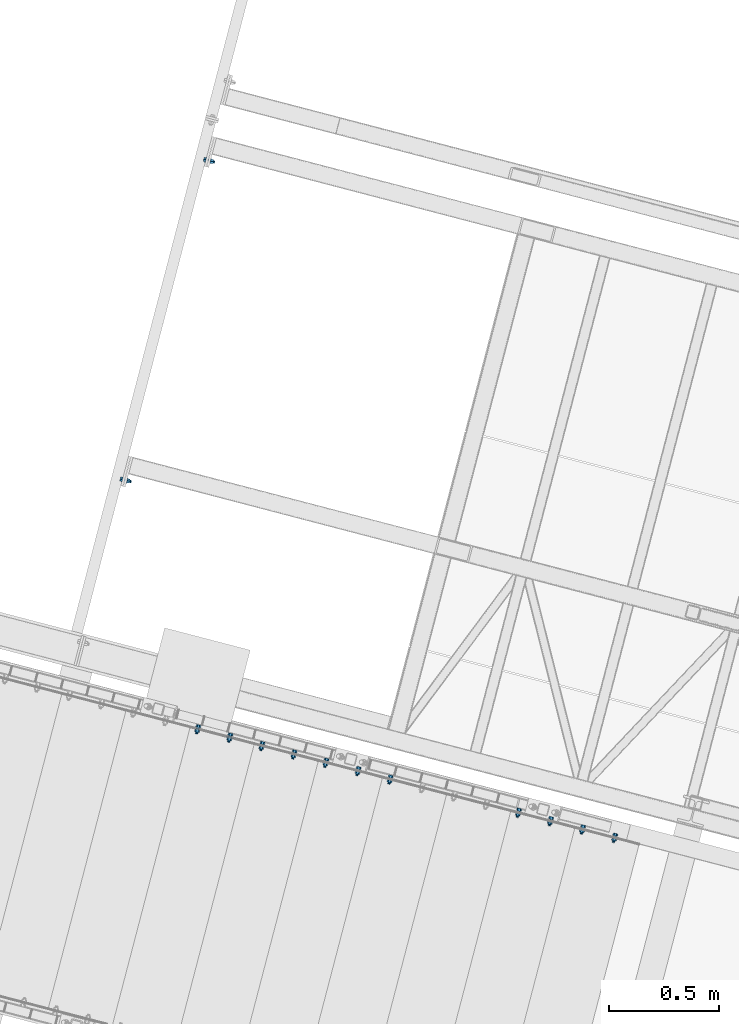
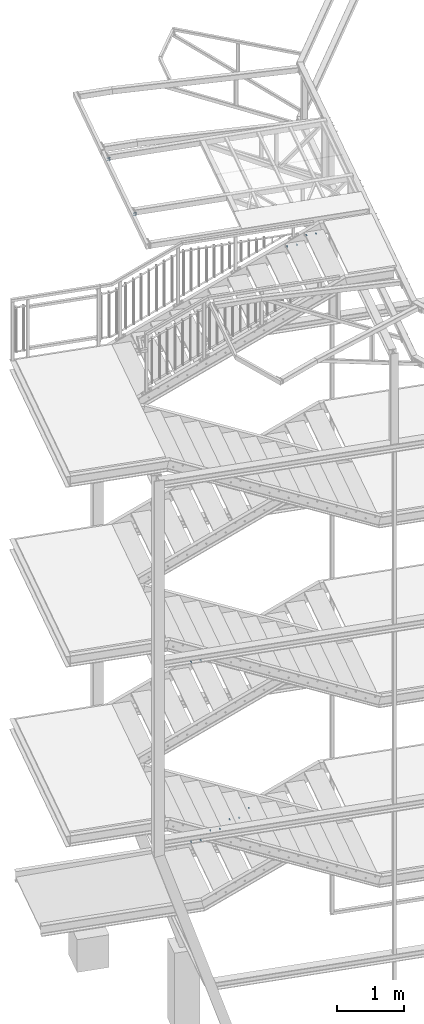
# One storey, part 151 of 169: 15 mechanical fasteners, 8 elements without a shape of their own.
"""IFC2X3 building model written with IfcOpenShell, lengths in millimetres."""

from ifc_helpers import new_model, si_unit, frame, frame_2d, origin_with_axes, origin_2d_with_axis, place, context, subcontext, project, spatial, polyline, circle_curve, parameter, trimmed, segment, composite_curve, circle, outline, extrude, source, transform, mapped, material, type_object, element, aggregate, save


model = new_model("IFC2X3")

# Units and contexts
model_context = context("Model", 3, precision=1e-05, world=origin_with_axes())
body_context = subcontext(model_context, "Body", "Model", "MODEL_VIEW")
ifc_project = project(units=[si_unit("LENGTHUNIT", "METRE", prefix="MILLI"), si_unit("AREAUNIT", "SQUARE_METRE"), si_unit("VOLUMEUNIT", "CUBIC_METRE"), si_unit("MASSUNIT", "GRAM", prefix="KILO"), si_unit("TIMEUNIT", "SECOND"), si_unit("PLANEANGLEUNIT", "RADIAN"), si_unit("SOLIDANGLEUNIT", "STERADIAN"), si_unit("THERMODYNAMICTEMPERATUREUNIT", "DEGREE_CELSIUS"), si_unit("LUMINOUSINTENSITYUNIT", "LUMEN")], contexts=[model_context])

# Site, building, storey
site_placement = place(None, origin_with_axes())
site = spatial("IfcSite", under=ifc_project, at=site_placement, Name="Undefined", CompositionType="ELEMENT")
building_placement = place(site_placement, origin_with_axes())
building = spatial("IfcBuilding", under=site, at=building_placement, Name="Undefined", CompositionType="ELEMENT")
storey_placement = place(building_placement, origin_with_axes())
storey = spatial("IfcBuildingStorey", under=building, at=storey_placement, Name="Undefined", CompositionType="ELEMENT", Elevation=0.0)

# Assembly, mechanical fasteners
assembly_1_placement = place(storey_placement, origin_with_axes())
assembly_1 = element("IfcElementAssembly", 1, at=assembly_1_placement, inside=storey, Name="Steel Assembly", AssemblyPlace="NOTDEFINED", PredefinedType="RIGID_FRAME")
ifc_material = material(Name="Undefined")
discrete_accessory_type = type_object("IfcDiscreteAccessoryType", Name="Bolt assembly")
shared_shape_1 = source(origin_with_axes(), body_context, "Body", "SweptSolid", [
    extrude(circle(Radius=7.5, at=origin_2d_with_axis()), frame((0.0, -10.3965103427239, 0.0), z_axis=(0.0, 1.0, 0.0), x_axis=(1.0, 0.0, 0.0)), (0.0, 0.0, 1.0), 10.0),
    extrude(outline(composite_curve([segment(polyline([(7.5, 7.5), (7.5, -7.5)]), True, "CONTINUOUS"), segment(trimmed(circle_curve(frame_2d((0.0, -7.5), x_axis=(1.0, 0.0)), 7.5), [parameter(0.0)], [parameter(3.14159265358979)], False, "PARAMETER"), True, "CONTINUOUS"), segment(polyline([(-7.5, -7.5), (-7.5, 7.5)]), True, "CONTINUOUS"), segment(trimmed(circle_curve(frame_2d((0.0, 7.5), x_axis=(-1.0, 0.0)), 7.5), [parameter(0.0)], [parameter(3.14159265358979)], False, "PARAMETER"), True, "DISCONTINUOUS")], self_intersect=False)), frame((0.0, 0.400000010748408, 0.0), z_axis=(0.0, 1.0, 0.0), x_axis=(1.0, 0.0, 0.0)), (0.0, 0.0, 1.0), 10.1),
    extrude(outline(polyline([(10.39230484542, 0.0), (5.19615242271, 9.00000000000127), (-5.19615242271, 9.00000000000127), (-10.39230484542, 0.0), (-5.19615242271, -9.00000000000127), (5.19615242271, -9.00000000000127), (10.39230484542, 0.0)])), frame((0.0, -20.9965103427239, 0.0), z_axis=(0.0, 1.0, 0.0), x_axis=(1.0, 0.0, 0.0)), (0.0, 0.0, 1.0), 7.5),
    extrude(circle(Radius=6.0, at=origin_2d_with_axis()), frame((0.0, -13.4965103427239, 0.0), z_axis=(0.0, 1.0, 0.0), x_axis=(1.0, 0.0, 0.0)), (0.0, 0.0, 1.0), 45.0),
    extrude(circle(Radius=12.0, at=origin_2d_with_axis()), frame((0.0, -13.4965103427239, 0.0), z_axis=(0.0, 1.0, 0.0), x_axis=(1.0, 0.0, 0.0)), (0.0, 0.0, 1.0), 3.0),
    extrude(circle(Radius=12.0, at=origin_2d_with_axis()), frame((0.0, 10.500000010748, 0.0), z_axis=(0.0, 1.0, 0.0), x_axis=(1.0, 0.0, 0.0)), (0.0, 0.0, 1.0), 3.0),
    extrude(outline(polyline([(10.96965511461, 0.0), (5.484827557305, 9.50000000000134), (-5.484827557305, 9.50000000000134), (-10.96965511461, 0.0), (-5.484827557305, -9.50000000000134), (5.484827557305, -9.50000000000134), (10.96965511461, 0.0)])), frame((0.0, 13.500000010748, 0.0), z_axis=(0.0, 1.0, 0.0), x_axis=(1.0, 0.0, 0.0)), (0.0, 0.0, 1.0), 10.0),
])
mechanical_fastener_1_placement = place(assembly_1_placement, frame((-26684.0017665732, 9645.53457575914, 14025.5932283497), z_axis=(-0.252628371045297, -0.967563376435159, 0.000136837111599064), x_axis=(0.000162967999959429, -0.000183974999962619, -0.999999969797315)))
mechanical_fastener_1 = element("IfcMechanicalFastener", 2, at=mechanical_fastener_1_placement, type_object=discrete_accessory_type, material=ifc_material, Name="Bolt assembly", NominalDiameter=12.0, NominalLength=45.0, context=body_context, shape_type="MappedRepresentation", body=[
    mapped(shared_shape_1, transform((30.0000000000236, 4.00177668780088e-11, 69.9999999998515))),
    mapped(shared_shape_1, transform((70.0000000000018, 0.0, 69.999999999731))),
])
shared_shape_2 = source(origin_with_axes(), body_context, "Body", "SweptSolid", [
    extrude(circle(Radius=7.5, at=origin_2d_with_axis()), frame((0.0, -10.3965103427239, 0.0), z_axis=(0.0, 1.0, 0.0), x_axis=(1.0, 0.0, 0.0)), (0.0, 0.0, 1.0), 10.0),
    extrude(outline(composite_curve([segment(polyline([(7.5, 7.5), (7.5, -7.5)]), True, "CONTINUOUS"), segment(trimmed(circle_curve(frame_2d((0.0, -7.5), x_axis=(1.0, 0.0)), 7.5), [parameter(0.0)], [parameter(3.14159265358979)], False, "PARAMETER"), True, "CONTINUOUS"), segment(polyline([(-7.5, -7.5), (-7.5, 7.5)]), True, "CONTINUOUS"), segment(trimmed(circle_curve(frame_2d((0.0, 7.5), x_axis=(-1.0, 0.0)), 7.5), [parameter(0.0)], [parameter(3.14159265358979)], False, "PARAMETER"), True, "DISCONTINUOUS")], self_intersect=False)), frame((0.0, 0.400000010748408, 0.0), z_axis=(0.0, 1.0, 0.0), x_axis=(1.0, 0.0, 0.0)), (0.0, 0.0, 1.0), 10.1),
    extrude(outline(polyline([(10.39230484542, 0.0), (5.19615242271, 9.00000000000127), (-5.19615242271, 9.00000000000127), (-10.39230484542, 0.0), (-5.19615242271, -9.00000000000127), (5.19615242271, -9.00000000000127), (10.39230484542, 0.0)])), frame((0.0, -20.9965103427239, 0.0), z_axis=(0.0, 1.0, 0.0), x_axis=(1.0, 0.0, 0.0)), (0.0, 0.0, 1.0), 7.5),
    extrude(circle(Radius=6.0, at=origin_2d_with_axis()), frame((0.0, -13.4965103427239, 0.0), z_axis=(0.0, 1.0, 0.0), x_axis=(1.0, 0.0, 0.0)), (0.0, 0.0, 1.0), 45.0),
    extrude(circle(Radius=12.0, at=origin_2d_with_axis()), frame((0.0, -13.4965103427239, 0.0), z_axis=(0.0, 1.0, 0.0), x_axis=(1.0, 0.0, 0.0)), (0.0, 0.0, 1.0), 3.0),
    extrude(circle(Radius=12.0, at=origin_2d_with_axis()), frame((0.0, 10.500000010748, 0.0), z_axis=(0.0, 1.0, 0.0), x_axis=(1.0, 0.0, 0.0)), (0.0, 0.0, 1.0), 3.0),
    extrude(outline(polyline([(10.96965511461, 0.0), (5.484827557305, 9.50000000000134), (-5.484827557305, 9.50000000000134), (-10.96965511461, 0.0), (-5.484827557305, -9.50000000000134), (5.484827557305, -9.50000000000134), (10.96965511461, 0.0)])), frame((0.0, 13.500000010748, 0.0), z_axis=(0.0, 1.0, 0.0), x_axis=(1.0, 0.0, 0.0)), (0.0, 0.0, 1.0), 10.0),
])
mechanical_fastener_2_placement = place(assembly_1_placement, frame((-26306.3225425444, 11092.0410943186, 14025.3886571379), z_axis=(-0.252628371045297, -0.967563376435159, 0.000136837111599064), x_axis=(0.000162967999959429, -0.000183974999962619, -0.999999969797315)))
mechanical_fastener_2 = element("IfcMechanicalFastener", 3, at=mechanical_fastener_2_placement, type_object=discrete_accessory_type, material=ifc_material, Name="Bolt assembly", NominalDiameter=12.0, NominalLength=45.0, context=body_context, shape_type="MappedRepresentation", body=[
    mapped(shared_shape_2, transform((30.0000000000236, 4.00177668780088e-11, 69.9999999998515))),
    mapped(shared_shape_2, transform((70.0000000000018, 0.0, 69.999999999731))),
])
aggregate(assembly_1, [mechanical_fastener_1, mechanical_fastener_2])

assembly_2_placement = place(storey_placement, origin_with_axes())
assembly_2 = element("IfcElementAssembly", 4, at=assembly_2_placement, inside=storey, Name="Steel Assembly", AssemblyPlace="NOTDEFINED", PredefinedType="RIGID_FRAME")
shared_shape_3 = source(origin_with_axes(), body_context, "Body", "SweptSolid", [
    extrude(circle(Radius=7.5, at=origin_2d_with_axis()), frame((0.0, -8.39999975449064, 0.0), z_axis=(0.0, 1.0, 0.0), x_axis=(1.0, 0.0, 0.0)), (0.0, 0.0, 1.0), 8.5),
    extrude(outline(composite_curve([segment(polyline([(-10.0, 7.5), (10.0, 7.5)]), True, "CONTINUOUS"), segment(trimmed(circle_curve(frame_2d((10.0, 0.0), x_axis=(0.0, 1.0)), 7.5), [parameter(0.0)], [parameter(3.14159265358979)], False, "PARAMETER"), True, "CONTINUOUS"), segment(polyline([(10.0, -7.5), (-10.0, -7.5)]), True, "CONTINUOUS"), segment(trimmed(circle_curve(frame_2d((-10.0, 0.0), x_axis=(0.0, -1.0)), 7.5), [parameter(0.0)], [parameter(3.14159265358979)], False, "PARAMETER"), True, "DISCONTINUOUS")], self_intersect=False)), frame((0.0, -0.100000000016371, 0.0), z_axis=(0.0, 1.0, 0.0), x_axis=(1.0, 0.0, 0.0)), (0.0, 0.0, 1.0), 3.1),
    extrude(outline(polyline([(10.39230484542, 0.0), (5.19615242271, 9.00000000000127), (-5.19615242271, 9.00000000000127), (-10.39230484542, 0.0), (-5.19615242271, -9.00000000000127), (5.19615242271, -9.00000000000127), (10.39230484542, 0.0)])), frame((0.0, -18.4999993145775, 0.0), z_axis=(0.0, 1.0, 0.0), x_axis=(1.0, 0.0, 0.0)), (0.0, 0.0, 1.0), 7.5),
    extrude(circle(Radius=6.0, at=origin_2d_with_axis()), frame((0.0, -10.9999999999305, 0.0), z_axis=(0.0, 1.0, 0.0), x_axis=(1.0, 0.0, 0.0)), (0.0, 0.0, 1.0), 35.0),
    extrude(circle(Radius=12.0, at=origin_2d_with_axis()), frame((0.0, -10.9999999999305, 0.0), z_axis=(0.0, 1.0, 0.0), x_axis=(1.0, 0.0, 0.0)), (0.0, 0.0, 1.0), 2.5),
    extrude(circle(Radius=12.0, at=origin_2d_with_axis()), frame((0.0, 2.99999999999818, 0.0), z_axis=(0.0, 1.0, 0.0), x_axis=(1.0, 0.0, 0.0)), (0.0, 0.0, 1.0), 2.5),
    extrude(outline(polyline([(10.96965511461, 0.0), (5.484827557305, 9.50000000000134), (-5.484827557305, 9.50000000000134), (-10.96965511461, 0.0), (-5.484827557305, -9.50000000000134), (5.484827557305, -9.50000000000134), (10.96965511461, 0.0)])), frame((0.0, 5.50000000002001, 0.0), z_axis=(0.0, 1.0, 0.0), x_axis=(1.0, 0.0, 0.0)), (0.0, 0.0, 1.0), 10.0),
])
mechanical_fastener_3_placement = place(assembly_2_placement, frame((-24663.1059749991, 8006.82399788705, 13850.0957858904), z_axis=(-2.54700353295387e-10, 0.0, -1.0), x_axis=(0.967580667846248, -0.252562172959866, 0.0)))
mechanical_fastener_3 = element("IfcMechanicalFastener", 5, at=mechanical_fastener_3_placement, type_object=discrete_accessory_type, material=ifc_material, Name="Bolt assembly", NominalDiameter=12.0, NominalLength=35.0, context=body_context, shape_type="MappedRepresentation", body=[
    mapped(shared_shape_3, transform((185.00000000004, -6.51198206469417e-10, 25.0))),
])
shared_shape_4 = source(origin_with_axes(), body_context, "Body", "SweptSolid", [
    extrude(circle(Radius=7.5, at=origin_2d_with_axis()), frame((0.0, -8.39999975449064, 0.0), z_axis=(0.0, 1.0, 0.0), x_axis=(1.0, 0.0, 0.0)), (0.0, 0.0, 1.0), 8.5),
    extrude(circle(Radius=7.5, at=origin_2d_with_axis()), frame((0.0, -0.100000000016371, 0.0), z_axis=(0.0, 1.0, 0.0), x_axis=(1.0, 0.0, 0.0)), (0.0, 0.0, 1.0), 3.1),
    extrude(outline(polyline([(10.39230484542, 0.0), (5.19615242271, 9.00000000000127), (-5.19615242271, 9.00000000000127), (-10.39230484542, 0.0), (-5.19615242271, -9.00000000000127), (5.19615242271, -9.00000000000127), (10.39230484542, 0.0)])), frame((0.0, -18.4999993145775, 0.0), z_axis=(0.0, 1.0, 0.0), x_axis=(1.0, 0.0, 0.0)), (0.0, 0.0, 1.0), 7.5),
    extrude(circle(Radius=6.0, at=origin_2d_with_axis()), frame((0.0, -10.9999999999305, 0.0), z_axis=(0.0, 1.0, 0.0), x_axis=(1.0, 0.0, 0.0)), (0.0, 0.0, 1.0), 35.0),
    extrude(circle(Radius=12.0, at=origin_2d_with_axis()), frame((0.0, -10.9999999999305, 0.0), z_axis=(0.0, 1.0, 0.0), x_axis=(1.0, 0.0, 0.0)), (0.0, 0.0, 1.0), 2.5),
    extrude(circle(Radius=12.0, at=origin_2d_with_axis()), frame((0.0, 2.99999999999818, 0.0), z_axis=(0.0, 1.0, 0.0), x_axis=(1.0, 0.0, 0.0)), (0.0, 0.0, 1.0), 2.5),
    extrude(outline(polyline([(10.96965511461, 0.0), (5.484827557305, 9.50000000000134), (-5.484827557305, 9.50000000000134), (-10.96965511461, 0.0), (-5.484827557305, -9.50000000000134), (5.484827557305, -9.50000000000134), (10.96965511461, 0.0)])), frame((0.0, 5.50000000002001, 0.0), z_axis=(0.0, 1.0, 0.0), x_axis=(1.0, 0.0, 0.0)), (0.0, 0.0, 1.0), 10.0),
])
mechanical_fastener_4_placement = place(assembly_2_placement, frame((-24663.1059749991, 8006.82399788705, 13850.0957858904), z_axis=(-2.54700353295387e-10, 0.0, -1.0), x_axis=(0.967580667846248, -0.252562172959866, 0.0)))
mechanical_fastener_4 = element("IfcMechanicalFastener", 6, at=mechanical_fastener_4_placement, type_object=discrete_accessory_type, material=ifc_material, Name="Bolt assembly", NominalDiameter=12.0, NominalLength=35.0, context=body_context, shape_type="MappedRepresentation", body=[
    mapped(shared_shape_4, transform((35.0000000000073, -1.23691279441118e-10, 25.0))),
])
aggregate(assembly_2, [mechanical_fastener_3, mechanical_fastener_4])

# Assembly, mechanical fastener
assembly_3_placement = place(storey_placement, origin_with_axes())
assembly_3 = element("IfcElementAssembly", 7, at=assembly_3_placement, inside=storey, Name="Steel Assembly", AssemblyPlace="NOTDEFINED", PredefinedType="RIGID_FRAME")
mechanical_fastener_5_placement = place(assembly_3_placement, frame((-24953.3801787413, 8082.59265069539, 13700.0957858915), z_axis=(-2.54700353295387e-10, 0.0, -1.0), x_axis=(0.967580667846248, -0.252562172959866, 0.0)))
mechanical_fastener_5 = element("IfcMechanicalFastener", 8, at=mechanical_fastener_5_placement, type_object=discrete_accessory_type, material=ifc_material, Name="Bolt assembly", NominalDiameter=12.0, NominalLength=35.0, context=body_context, shape_type="MappedRepresentation", body=[
    mapped(shared_shape_4, transform((35.0000000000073, -1.23691279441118e-10, 25.0))),
])

assembly_4_placement = place(storey_placement, origin_with_axes())
assembly_4 = element("IfcElementAssembly", 9, at=assembly_4_placement, inside=storey, Name="Steel Assembly", AssemblyPlace="NOTDEFINED", PredefinedType="RIGID_FRAME")
mechanical_fastener_6_placement = place(assembly_4_placement, frame((-26404.9793522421, 8460.56208482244, 6350.09584768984), z_axis=(-2.54700353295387e-10, 0.0, -1.0), x_axis=(0.967580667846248, -0.252562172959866, 0.0)))
mechanical_fastener_6 = element("IfcMechanicalFastener", 10, at=mechanical_fastener_6_placement, type_object=discrete_accessory_type, material=ifc_material, Name="Bolt assembly", NominalDiameter=12.0, NominalLength=35.0, context=body_context, shape_type="MappedRepresentation", body=[
    mapped(shared_shape_4, transform((35.0000000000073, -1.23691279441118e-10, 25.0))),
])

assembly_5_placement = place(storey_placement, origin_with_axes())
assembly_5 = element("IfcElementAssembly", 11, at=assembly_5_placement, inside=storey, Name="Steel Assembly", AssemblyPlace="NOTDEFINED", PredefinedType="RIGID_FRAME")
mechanical_fastener_7_placement = place(assembly_5_placement, frame((-25534.2708266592, 8232.81921337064, 3500.09587438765), z_axis=(-2.54700353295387e-10, 0.0, -1.0), x_axis=(0.967580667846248, -0.252562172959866, 0.0)))
mechanical_fastener_7 = element("IfcMechanicalFastener", 12, at=mechanical_fastener_7_placement, type_object=discrete_accessory_type, material=ifc_material, Name="Bolt assembly", NominalDiameter=12.0, NominalLength=35.0, context=body_context, shape_type="MappedRepresentation", body=[
    mapped(shared_shape_4, transform((35.0000000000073, -1.23691279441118e-10, 25.0))),
])
aggregate(assembly_5, [mechanical_fastener_7])

assembly_6_placement = place(storey_placement, origin_with_axes())
assembly_6 = element("IfcElementAssembly", 13, at=assembly_6_placement, inside=storey, Name="Steel Assembly", AssemblyPlace="NOTDEFINED", PredefinedType="RIGID_FRAME")
mechanical_fastener_8_placement = place(assembly_6_placement, frame((-25824.5450304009, 8308.58786617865, 3350.0958743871), z_axis=(-2.54700353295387e-10, 0.0, -1.0), x_axis=(0.967580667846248, -0.252562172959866, 0.0)))
mechanical_fastener_8 = element("IfcMechanicalFastener", 14, at=mechanical_fastener_8_placement, type_object=discrete_accessory_type, material=ifc_material, Name="Bolt assembly", NominalDiameter=12.0, NominalLength=35.0, context=body_context, shape_type="MappedRepresentation", body=[
    mapped(shared_shape_4, transform((35.0000000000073, -1.23691279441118e-10, 25.0))),
])

assembly_7_placement = place(storey_placement, origin_with_axes())
assembly_7 = element("IfcElementAssembly", 15, at=assembly_7_placement, inside=storey, Name="Steel Assembly", AssemblyPlace="NOTDEFINED", PredefinedType="RIGID_FRAME")
mechanical_fastener_9_placement = place(assembly_7_placement, frame((-26114.8192341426, 8384.35651898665, 3200.09587438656), z_axis=(-2.54700353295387e-10, 0.0, -1.0), x_axis=(0.967580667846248, -0.252562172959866, 0.0)))
mechanical_fastener_9 = element("IfcMechanicalFastener", 16, at=mechanical_fastener_9_placement, type_object=discrete_accessory_type, material=ifc_material, Name="Bolt assembly", NominalDiameter=12.0, NominalLength=35.0, context=body_context, shape_type="MappedRepresentation", body=[
    mapped(shared_shape_4, transform((35.0000000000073, -1.23691279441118e-10, 25.0))),
])

assembly_8_placement = place(storey_placement, origin_with_axes())
assembly_8 = element("IfcElementAssembly", 17, at=assembly_8_placement, inside=storey, Name="Steel Assembly", AssemblyPlace="NOTDEFINED", PredefinedType="RIGID_FRAME")
mechanical_fastener_10_placement = place(assembly_8_placement, frame((-26405.0934378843, 8460.12517179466, 3050.09587438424), z_axis=(-2.54700353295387e-10, 0.0, -1.0), x_axis=(0.967580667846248, -0.252562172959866, 0.0)))
mechanical_fastener_10 = element("IfcMechanicalFastener", 18, at=mechanical_fastener_10_placement, type_object=discrete_accessory_type, material=ifc_material, Name="Bolt assembly", NominalDiameter=12.0, NominalLength=35.0, context=body_context, shape_type="MappedRepresentation", body=[
    mapped(shared_shape_4, transform((35.0000000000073, -1.23691279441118e-10, 25.0))),
])

# Mechanical fastener
shared_shape_5 = source(origin_with_axes(), body_context, "Body", "SweptSolid", [
    extrude(circle(Radius=7.5, at=origin_2d_with_axis()), frame((0.0, -8.39999975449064, 0.0), z_axis=(0.0, 1.0, 0.0), x_axis=(1.0, 0.0, 0.0)), (0.0, 0.0, 1.0), 8.5),
    extrude(outline(composite_curve([segment(polyline([(-10.0, 7.5), (10.0, 7.5)]), True, "CONTINUOUS"), segment(trimmed(circle_curve(frame_2d((10.0, 0.0), x_axis=(0.0, 1.0)), 7.5), [parameter(0.0)], [parameter(3.14159265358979)], False, "PARAMETER"), True, "CONTINUOUS"), segment(polyline([(10.0, -7.5), (-10.0, -7.5)]), True, "CONTINUOUS"), segment(trimmed(circle_curve(frame_2d((-10.0, 0.0), x_axis=(0.0, -1.0)), 7.5), [parameter(0.0)], [parameter(3.14159265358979)], False, "PARAMETER"), True, "DISCONTINUOUS")], self_intersect=False)), frame((0.0, -0.100000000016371, 0.0), z_axis=(0.0, 1.0, 0.0), x_axis=(1.0, 0.0, 0.0)), (0.0, 0.0, 1.0), 3.1),
    extrude(outline(polyline([(10.39230484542, 0.0), (5.19615242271, 9.00000000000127), (-5.19615242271, 9.00000000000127), (-10.39230484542, 0.0), (-5.19615242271, -9.00000000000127), (5.19615242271, -9.00000000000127), (10.39230484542, 0.0)])), frame((0.0, -18.4999993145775, 0.0), z_axis=(0.0, 1.0, 0.0), x_axis=(1.0, 0.0, 0.0)), (0.0, 0.0, 1.0), 7.5),
    extrude(circle(Radius=6.0, at=origin_2d_with_axis()), frame((0.0, -10.9999999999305, 0.0), z_axis=(0.0, 1.0, 0.0), x_axis=(1.0, 0.0, 0.0)), (0.0, 0.0, 1.0), 35.0),
    extrude(circle(Radius=12.0, at=origin_2d_with_axis()), frame((0.0, -10.9999999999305, 0.0), z_axis=(0.0, 1.0, 0.0), x_axis=(1.0, 0.0, 0.0)), (0.0, 0.0, 1.0), 2.5),
    extrude(circle(Radius=12.0, at=origin_2d_with_axis()), frame((0.0, 2.99999999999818, 0.0), z_axis=(0.0, 1.0, 0.0), x_axis=(1.0, 0.0, 0.0)), (0.0, 0.0, 1.0), 2.5),
    extrude(outline(polyline([(10.96965511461, 0.0), (5.484827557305, 9.50000000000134), (-5.484827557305, 9.50000000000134), (-10.96965511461, 0.0), (-5.484827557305, -9.50000000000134), (5.484827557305, -9.50000000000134), (10.96965511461, 0.0)])), frame((0.0, 5.50000000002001, 0.0), z_axis=(0.0, 1.0, 0.0), x_axis=(1.0, 0.0, 0.0)), (0.0, 0.0, 1.0), 10.0),
])
mechanical_fastener_11_placement = place(assembly_3_placement, frame((-24953.3801787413, 8082.59265069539, 13700.0957858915), z_axis=(-2.54700353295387e-10, 0.0, -1.0), x_axis=(0.967580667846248, -0.252562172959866, 0.0)))
mechanical_fastener_11 = element("IfcMechanicalFastener", 19, at=mechanical_fastener_11_placement, type_object=discrete_accessory_type, material=ifc_material, Name="Bolt assembly", NominalDiameter=12.0, NominalLength=35.0, context=body_context, shape_type="MappedRepresentation", body=[
    mapped(shared_shape_5, transform((185.00000000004, -6.51198206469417e-10, 25.0))),
])

aggregate(assembly_3, [mechanical_fastener_11, mechanical_fastener_5])

shared_shape_6 = source(origin_with_axes(), body_context, "Body", "SweptSolid", [
    extrude(circle(Radius=7.5, at=origin_2d_with_axis()), frame((0.0, -8.39999975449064, 0.0), z_axis=(0.0, 1.0, 0.0), x_axis=(1.0, 0.0, 0.0)), (0.0, 0.0, 1.0), 8.5),
    extrude(outline(composite_curve([segment(polyline([(-10.0, 7.5), (10.0, 7.5)]), True, "CONTINUOUS"), segment(trimmed(circle_curve(frame_2d((10.0, 0.0), x_axis=(0.0, 1.0)), 7.5), [parameter(0.0)], [parameter(3.14159265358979)], False, "PARAMETER"), True, "CONTINUOUS"), segment(polyline([(10.0, -7.5), (-10.0, -7.5)]), True, "CONTINUOUS"), segment(trimmed(circle_curve(frame_2d((-10.0, 0.0), x_axis=(0.0, -1.0)), 7.5), [parameter(0.0)], [parameter(3.14159265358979)], False, "PARAMETER"), True, "DISCONTINUOUS")], self_intersect=False)), frame((0.0, -0.100000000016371, 0.0), z_axis=(0.0, 1.0, 0.0), x_axis=(1.0, 0.0, 0.0)), (0.0, 0.0, 1.0), 3.1),
    extrude(outline(polyline([(10.39230484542, 0.0), (5.19615242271, 9.00000000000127), (-5.19615242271, 9.00000000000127), (-10.39230484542, 0.0), (-5.19615242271, -9.00000000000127), (5.19615242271, -9.00000000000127), (10.39230484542, 0.0)])), frame((0.0, -18.4999993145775, 0.0), z_axis=(0.0, 1.0, 0.0), x_axis=(1.0, 0.0, 0.0)), (0.0, 0.0, 1.0), 7.5),
    extrude(circle(Radius=6.0, at=origin_2d_with_axis()), frame((0.0, -10.9999999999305, 0.0), z_axis=(0.0, 1.0, 0.0), x_axis=(1.0, 0.0, 0.0)), (0.0, 0.0, 1.0), 35.0),
    extrude(circle(Radius=12.0, at=origin_2d_with_axis()), frame((0.0, -10.9999999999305, 0.0), z_axis=(0.0, 1.0, 0.0), x_axis=(1.0, 0.0, 0.0)), (0.0, 0.0, 1.0), 2.5),
    extrude(circle(Radius=12.0, at=origin_2d_with_axis()), frame((0.0, 2.99999999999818, 0.0), z_axis=(0.0, 1.0, 0.0), x_axis=(1.0, 0.0, 0.0)), (0.0, 0.0, 1.0), 2.5),
    extrude(outline(polyline([(10.96965511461, 0.0), (5.484827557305, 9.50000000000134), (-5.484827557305, 9.50000000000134), (-10.96965511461, 0.0), (-5.484827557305, -9.50000000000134), (5.484827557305, -9.50000000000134), (10.96965511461, 0.0)])), frame((0.0, 5.50000000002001, 0.0), z_axis=(0.0, 1.0, 0.0), x_axis=(1.0, 0.0, 0.0)), (0.0, 0.0, 1.0), 10.0),
])
mechanical_fastener_12_placement = place(assembly_4_placement, frame((-26404.9793522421, 8460.56208482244, 6350.09584768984), z_axis=(-2.54700353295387e-10, 0.0, -1.0), x_axis=(0.967580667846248, -0.252562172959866, 0.0)))
mechanical_fastener_12 = element("IfcMechanicalFastener", 20, at=mechanical_fastener_12_placement, type_object=discrete_accessory_type, material=ifc_material, Name="Bolt assembly", NominalDiameter=12.0, NominalLength=35.0, context=body_context, shape_type="MappedRepresentation", body=[
    mapped(shared_shape_6, transform((185.00000000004, -6.51198206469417e-10, 25.0))),
])

aggregate(assembly_4, [mechanical_fastener_12, mechanical_fastener_6])

shared_shape_7 = source(origin_with_axes(), body_context, "Body", "SweptSolid", [
    extrude(circle(Radius=7.5, at=origin_2d_with_axis()), frame((0.0, -8.39999975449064, 0.0), z_axis=(0.0, 1.0, 0.0), x_axis=(1.0, 0.0, 0.0)), (0.0, 0.0, 1.0), 8.5),
    extrude(outline(composite_curve([segment(polyline([(-10.0, 7.5), (10.0, 7.5)]), True, "CONTINUOUS"), segment(trimmed(circle_curve(frame_2d((10.0, 0.0), x_axis=(0.0, 1.0)), 7.5), [parameter(0.0)], [parameter(3.14159265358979)], False, "PARAMETER"), True, "CONTINUOUS"), segment(polyline([(10.0, -7.5), (-10.0, -7.5)]), True, "CONTINUOUS"), segment(trimmed(circle_curve(frame_2d((-10.0, 0.0), x_axis=(0.0, -1.0)), 7.5), [parameter(0.0)], [parameter(3.14159265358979)], False, "PARAMETER"), True, "DISCONTINUOUS")], self_intersect=False)), frame((0.0, -0.100000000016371, 0.0), z_axis=(0.0, 1.0, 0.0), x_axis=(1.0, 0.0, 0.0)), (0.0, 0.0, 1.0), 3.1),
    extrude(outline(polyline([(10.39230484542, 0.0), (5.19615242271, 9.00000000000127), (-5.19615242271, 9.00000000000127), (-10.39230484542, 0.0), (-5.19615242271, -9.00000000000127), (5.19615242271, -9.00000000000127), (10.39230484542, 0.0)])), frame((0.0, -18.4999993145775, 0.0), z_axis=(0.0, 1.0, 0.0), x_axis=(1.0, 0.0, 0.0)), (0.0, 0.0, 1.0), 7.5),
    extrude(circle(Radius=6.0, at=origin_2d_with_axis()), frame((0.0, -10.9999999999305, 0.0), z_axis=(0.0, 1.0, 0.0), x_axis=(1.0, 0.0, 0.0)), (0.0, 0.0, 1.0), 35.0),
    extrude(circle(Radius=12.0, at=origin_2d_with_axis()), frame((0.0, -10.9999999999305, 0.0), z_axis=(0.0, 1.0, 0.0), x_axis=(1.0, 0.0, 0.0)), (0.0, 0.0, 1.0), 2.5),
    extrude(circle(Radius=12.0, at=origin_2d_with_axis()), frame((0.0, 2.99999999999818, 0.0), z_axis=(0.0, 1.0, 0.0), x_axis=(1.0, 0.0, 0.0)), (0.0, 0.0, 1.0), 2.5),
    extrude(outline(polyline([(10.96965511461, 0.0), (5.484827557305, 9.50000000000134), (-5.484827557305, 9.50000000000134), (-10.96965511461, 0.0), (-5.484827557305, -9.50000000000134), (5.484827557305, -9.50000000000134), (10.96965511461, 0.0)])), frame((0.0, 5.50000000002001, 0.0), z_axis=(0.0, 1.0, 0.0), x_axis=(1.0, 0.0, 0.0)), (0.0, 0.0, 1.0), 10.0),
])
mechanical_fastener_13_placement = place(assembly_6_placement, frame((-25824.5450304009, 8308.58786617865, 3350.0958743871), z_axis=(-2.54700353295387e-10, 0.0, -1.0), x_axis=(0.967580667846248, -0.252562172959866, 0.0)))
mechanical_fastener_13 = element("IfcMechanicalFastener", 21, at=mechanical_fastener_13_placement, type_object=discrete_accessory_type, material=ifc_material, Name="Bolt assembly", NominalDiameter=12.0, NominalLength=35.0, context=body_context, shape_type="MappedRepresentation", body=[
    mapped(shared_shape_7, transform((185.00000000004, -6.51198206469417e-10, 25.0))),
])

aggregate(assembly_6, [mechanical_fastener_13, mechanical_fastener_8])

shared_shape_8 = source(origin_with_axes(), body_context, "Body", "SweptSolid", [
    extrude(circle(Radius=7.5, at=origin_2d_with_axis()), frame((0.0, -8.39999975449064, 0.0), z_axis=(0.0, 1.0, 0.0), x_axis=(1.0, 0.0, 0.0)), (0.0, 0.0, 1.0), 8.5),
    extrude(outline(composite_curve([segment(polyline([(-10.0, 7.5), (10.0, 7.5)]), True, "CONTINUOUS"), segment(trimmed(circle_curve(frame_2d((10.0, 0.0), x_axis=(0.0, 1.0)), 7.5), [parameter(0.0)], [parameter(3.14159265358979)], False, "PARAMETER"), True, "CONTINUOUS"), segment(polyline([(10.0, -7.5), (-10.0, -7.5)]), True, "CONTINUOUS"), segment(trimmed(circle_curve(frame_2d((-10.0, 0.0), x_axis=(0.0, -1.0)), 7.5), [parameter(0.0)], [parameter(3.14159265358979)], False, "PARAMETER"), True, "DISCONTINUOUS")], self_intersect=False)), frame((0.0, -0.100000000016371, 0.0), z_axis=(0.0, 1.0, 0.0), x_axis=(1.0, 0.0, 0.0)), (0.0, 0.0, 1.0), 3.1),
    extrude(outline(polyline([(10.39230484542, 0.0), (5.19615242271, 9.00000000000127), (-5.19615242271, 9.00000000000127), (-10.39230484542, 0.0), (-5.19615242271, -9.00000000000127), (5.19615242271, -9.00000000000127), (10.39230484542, 0.0)])), frame((0.0, -18.4999993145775, 0.0), z_axis=(0.0, 1.0, 0.0), x_axis=(1.0, 0.0, 0.0)), (0.0, 0.0, 1.0), 7.5),
    extrude(circle(Radius=6.0, at=origin_2d_with_axis()), frame((0.0, -10.9999999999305, 0.0), z_axis=(0.0, 1.0, 0.0), x_axis=(1.0, 0.0, 0.0)), (0.0, 0.0, 1.0), 35.0),
    extrude(circle(Radius=12.0, at=origin_2d_with_axis()), frame((0.0, -10.9999999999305, 0.0), z_axis=(0.0, 1.0, 0.0), x_axis=(1.0, 0.0, 0.0)), (0.0, 0.0, 1.0), 2.5),
    extrude(circle(Radius=12.0, at=origin_2d_with_axis()), frame((0.0, 2.99999999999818, 0.0), z_axis=(0.0, 1.0, 0.0), x_axis=(1.0, 0.0, 0.0)), (0.0, 0.0, 1.0), 2.5),
    extrude(outline(polyline([(10.96965511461, 0.0), (5.484827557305, 9.50000000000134), (-5.484827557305, 9.50000000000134), (-10.96965511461, 0.0), (-5.484827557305, -9.50000000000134), (5.484827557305, -9.50000000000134), (10.96965511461, 0.0)])), frame((0.0, 5.50000000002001, 0.0), z_axis=(0.0, 1.0, 0.0), x_axis=(1.0, 0.0, 0.0)), (0.0, 0.0, 1.0), 10.0),
])
mechanical_fastener_14_placement = place(assembly_7_placement, frame((-26114.8192341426, 8384.35651898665, 3200.09587438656), z_axis=(-2.54700353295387e-10, 0.0, -1.0), x_axis=(0.967580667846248, -0.252562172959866, 0.0)))
mechanical_fastener_14 = element("IfcMechanicalFastener", 22, at=mechanical_fastener_14_placement, type_object=discrete_accessory_type, material=ifc_material, Name="Bolt assembly", NominalDiameter=12.0, NominalLength=35.0, context=body_context, shape_type="MappedRepresentation", body=[
    mapped(shared_shape_8, transform((185.00000000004, -6.51198206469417e-10, 25.0))),
])

aggregate(assembly_7, [mechanical_fastener_14, mechanical_fastener_9])

shared_shape_9 = source(origin_with_axes(), body_context, "Body", "SweptSolid", [
    extrude(circle(Radius=7.5, at=origin_2d_with_axis()), frame((0.0, -8.39999975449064, 0.0), z_axis=(0.0, 1.0, 0.0), x_axis=(1.0, 0.0, 0.0)), (0.0, 0.0, 1.0), 8.5),
    extrude(outline(composite_curve([segment(polyline([(-10.0, 7.5), (10.0, 7.5)]), True, "CONTINUOUS"), segment(trimmed(circle_curve(frame_2d((10.0, 0.0), x_axis=(0.0, 1.0)), 7.5), [parameter(0.0)], [parameter(3.14159265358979)], False, "PARAMETER"), True, "CONTINUOUS"), segment(polyline([(10.0, -7.5), (-10.0, -7.5)]), True, "CONTINUOUS"), segment(trimmed(circle_curve(frame_2d((-10.0, 0.0), x_axis=(0.0, -1.0)), 7.5), [parameter(0.0)], [parameter(3.14159265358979)], False, "PARAMETER"), True, "DISCONTINUOUS")], self_intersect=False)), frame((0.0, -0.100000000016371, 0.0), z_axis=(0.0, 1.0, 0.0), x_axis=(1.0, 0.0, 0.0)), (0.0, 0.0, 1.0), 3.1),
    extrude(outline(polyline([(10.39230484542, 0.0), (5.19615242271, 9.00000000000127), (-5.19615242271, 9.00000000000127), (-10.39230484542, 0.0), (-5.19615242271, -9.00000000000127), (5.19615242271, -9.00000000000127), (10.39230484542, 0.0)])), frame((0.0, -18.4999993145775, 0.0), z_axis=(0.0, 1.0, 0.0), x_axis=(1.0, 0.0, 0.0)), (0.0, 0.0, 1.0), 7.5),
    extrude(circle(Radius=6.0, at=origin_2d_with_axis()), frame((0.0, -10.9999999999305, 0.0), z_axis=(0.0, 1.0, 0.0), x_axis=(1.0, 0.0, 0.0)), (0.0, 0.0, 1.0), 35.0),
    extrude(circle(Radius=12.0, at=origin_2d_with_axis()), frame((0.0, -10.9999999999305, 0.0), z_axis=(0.0, 1.0, 0.0), x_axis=(1.0, 0.0, 0.0)), (0.0, 0.0, 1.0), 2.5),
    extrude(circle(Radius=12.0, at=origin_2d_with_axis()), frame((0.0, 2.99999999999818, 0.0), z_axis=(0.0, 1.0, 0.0), x_axis=(1.0, 0.0, 0.0)), (0.0, 0.0, 1.0), 2.5),
    extrude(outline(polyline([(10.96965511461, 0.0), (5.484827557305, 9.50000000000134), (-5.484827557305, 9.50000000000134), (-10.96965511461, 0.0), (-5.484827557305, -9.50000000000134), (5.484827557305, -9.50000000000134), (10.96965511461, 0.0)])), frame((0.0, 5.50000000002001, 0.0), z_axis=(0.0, 1.0, 0.0), x_axis=(1.0, 0.0, 0.0)), (0.0, 0.0, 1.0), 10.0),
])
mechanical_fastener_15_placement = place(assembly_8_placement, frame((-26405.0934378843, 8460.12517179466, 3050.09587438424), z_axis=(-2.54700353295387e-10, 0.0, -1.0), x_axis=(0.967580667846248, -0.252562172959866, 0.0)))
mechanical_fastener_15 = element("IfcMechanicalFastener", 23, at=mechanical_fastener_15_placement, type_object=discrete_accessory_type, material=ifc_material, Name="Bolt assembly", NominalDiameter=12.0, NominalLength=35.0, context=body_context, shape_type="MappedRepresentation", body=[
    mapped(shared_shape_9, transform((185.00000000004, -6.51198206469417e-10, 25.0))),
])

aggregate(assembly_8, [mechanical_fastener_15, mechanical_fastener_10])

save(model, "model.ifc")
